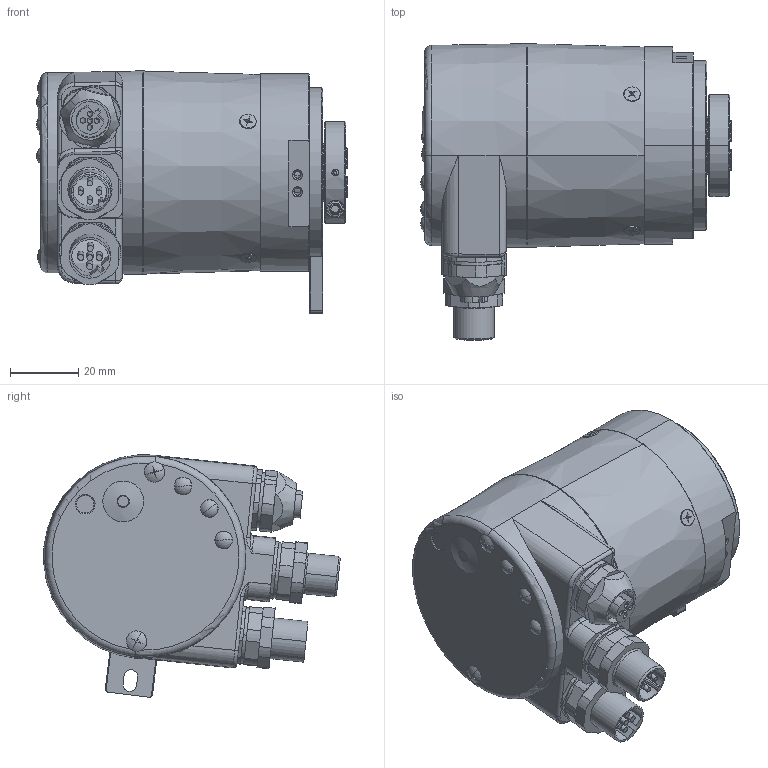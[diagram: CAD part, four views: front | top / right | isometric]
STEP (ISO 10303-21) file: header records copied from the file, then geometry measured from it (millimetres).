
FILE_DESCRIPTION (( 'STEP AP214' ), '1' );
FILE_NAME ('5888.1432.XXXX.STEP', '2008-06-17T07:52:28', ( 'admin' ), ( 'Fritz Kübler GmbH' ), 'SwSTEP 2.0', 'SolidWorks 2007', '' );
FILE_SCHEMA (( 'AUTOMOTIVE_DESIGN' ));
Length unit declared in the file: millimetre
Products named in the file (1): 5888.1432.XXXX
Bounding box: 91.4 x 87.19 x 71.26 mm (x, y, z)
Surface area: 33999.6 mm2 (no closed solid volume)
Topology: 0 solids, 32 shells, 551 faces, 1524 edges, 999 vertices
Faces by surface type: plane 243, cylinder 212, cone 61, torus 15, sphere 11, bspline 9
Entity records: 24443 total; most frequent: CARTESIAN_POINT 4187, DIRECTION 3115, ORIENTED_EDGE 2720, EDGE_CURVE 1519, AXIS2_PLACEMENT_3D 1143, VERTEX_POINT 999, VECTOR 829, LINE 829
